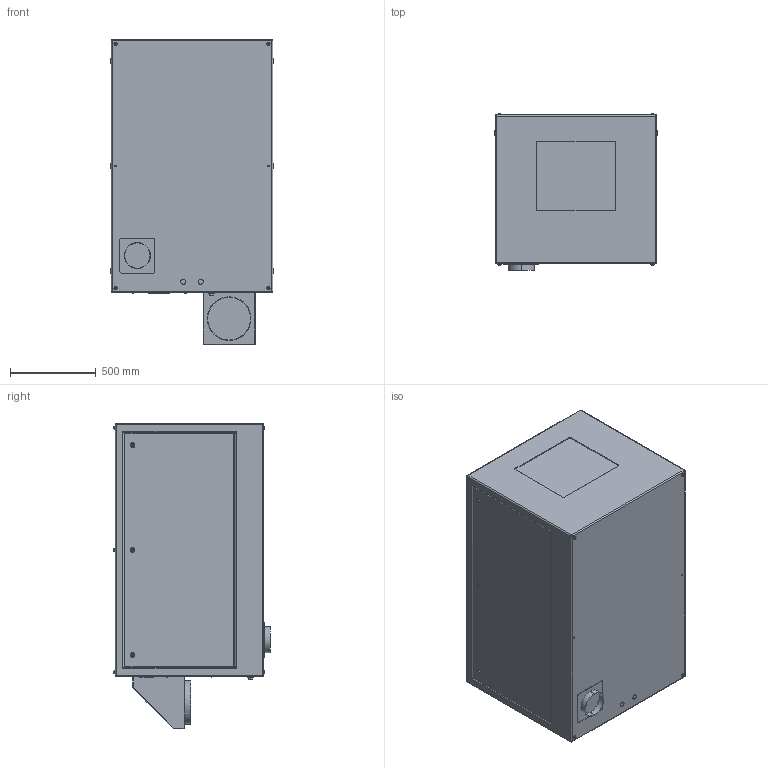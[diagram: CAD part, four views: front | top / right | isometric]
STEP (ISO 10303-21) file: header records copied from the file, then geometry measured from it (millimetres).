
FILE_DESCRIPTION (( 'STEP AP214' ), '1' );
FILE_NAME ('Cyclone 55.324.LAC.xx R08.STEP', '2020-05-28T12:55:15', ( '' ), ( '' ), 'SwSTEP 2.0', 'SolidWorks 2018', '' );
FILE_SCHEMA (( 'AUTOMOTIVE_DESIGN' ));
Length unit declared in the file: inch
Products named in the file (1): Cyclone 55.324.LAC.xx R08
Bounding box: 952.5 x 909.07 x 1775.46 mm (x, y, z)
Volume: 1209954014.1 mm3; surface area: 10177487.1 mm2
Topology: 1 solids, 3 shells, 486 faces, 1124 edges, 698 vertices
Faces by surface type: plane 237, cylinder 183, torus 44, sphere 14, bspline 8
Entity records: 18094 total; most frequent: CARTESIAN_POINT 2833, DIRECTION 2464, ORIENTED_EDGE 2208, EDGE_CURVE 1104, AXIS2_PLACEMENT_3D 905, VERTEX_POINT 698, VECTOR 654, LINE 654
